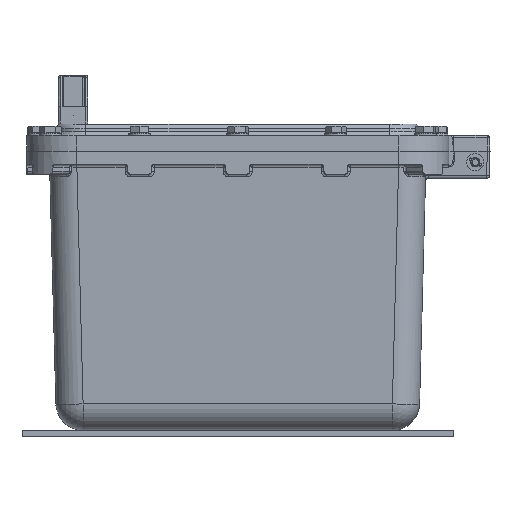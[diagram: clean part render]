
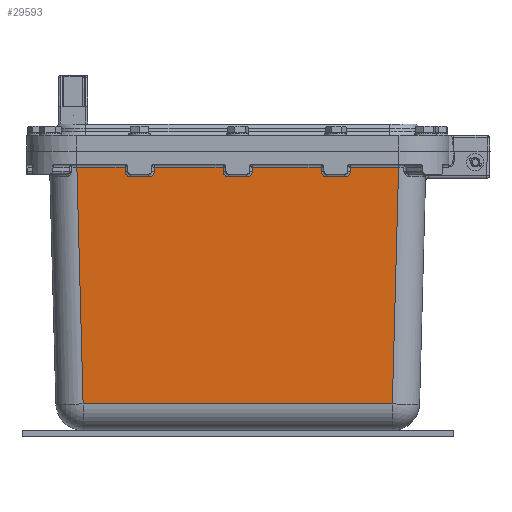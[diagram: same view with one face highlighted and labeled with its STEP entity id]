
A CAD part, front view. The second image highlights one B-rep face of the part: STEP entity #29593.
In plain terms, the highlighted planar face has unit normal (0, -1, -0.026).
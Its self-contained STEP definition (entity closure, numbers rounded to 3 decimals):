
#17242=CARTESIAN_POINT('',(103.435,-262.922,-14.435));
#17243=VERTEX_POINT('',#17242);
#17356=CARTESIAN_POINT('',(98.329,-262.686,-23.435));
#17357=VERTEX_POINT('',#17356);
#17358=CARTESIAN_POINT('',(103.327,-262.814,-18.565));
#17359=VERTEX_POINT('',#17358);
#17360=CARTESIAN_POINT('',(98.329,-262.817,-18.435));
#17361=DIRECTION('',(0.0,-1.,-0.026));
#17362=DIRECTION('',(0.,0.026,-1.));
#17363=AXIS2_PLACEMENT_3D('',#17360,#17361,#17362);
#17364=ELLIPSE('',#17363,5.002,5.);
#17365=EDGE_CURVE('',#17357,#17359,#17364,.T.);
#17401=CARTESIAN_POINT('',(103.327,-262.814,-18.565));
#17402=DIRECTION('',(0.026,-0.026,0.999));
#17403=VECTOR('',#17402,4.134);
#17404=LINE('',#17401,#17403);
#17405=EDGE_CURVE('',#17359,#17243,#17404,.T.);
#17505=CARTESIAN_POINT('',(76.673,-262.814,-18.565));
#17506=VERTEX_POINT('',#17505);
#17514=CARTESIAN_POINT('',(81.671,-262.686,-23.435));
#17515=VERTEX_POINT('',#17514);
#17516=CARTESIAN_POINT('',(81.671,-262.817,-18.435));
#17517=DIRECTION('',(0.0,-1.,-0.026));
#17518=DIRECTION('',(0.,0.026,-1.));
#17519=AXIS2_PLACEMENT_3D('',#17516,#17517,#17518);
#17520=ELLIPSE('',#17519,5.002,5.0);
#17521=EDGE_CURVE('',#17506,#17515,#17520,.T.);
#17583=CARTESIAN_POINT('',(76.565,-262.922,-14.435));
#17584=VERTEX_POINT('',#17583);
#17676=CARTESIAN_POINT('',(13.435,-262.922,-14.435));
#17677=VERTEX_POINT('',#17676);
#17797=CARTESIAN_POINT('',(8.329,-262.686,-23.435));
#17798=VERTEX_POINT('',#17797);
#17799=CARTESIAN_POINT('',(13.327,-262.814,-18.565));
#17800=VERTEX_POINT('',#17799);
#17801=CARTESIAN_POINT('',(8.329,-262.817,-18.435));
#17802=DIRECTION('',(0.0,-1.,-0.026));
#17803=DIRECTION('',(0.,0.026,-1.));
#17804=AXIS2_PLACEMENT_3D('',#17801,#17802,#17803);
#17805=ELLIPSE('',#17804,5.002,5.);
#17806=EDGE_CURVE('',#17798,#17800,#17805,.T.);
#17842=CARTESIAN_POINT('',(13.327,-262.814,-18.565));
#17843=DIRECTION('',(0.026,-0.026,0.999));
#17844=VECTOR('',#17843,4.134);
#17845=LINE('',#17842,#17844);
#17846=EDGE_CURVE('',#17800,#17677,#17845,.T.);
#17946=CARTESIAN_POINT('',(-13.327,-262.814,-18.565));
#17947=VERTEX_POINT('',#17946);
#17955=CARTESIAN_POINT('',(-8.329,-262.686,-23.435));
#17956=VERTEX_POINT('',#17955);
#17957=CARTESIAN_POINT('',(-8.329,-262.817,-18.435));
#17958=DIRECTION('',(0.,-1.,-0.026));
#17959=DIRECTION('',(0.,0.026,-1.));
#17960=AXIS2_PLACEMENT_3D('',#17957,#17958,#17959);
#17961=ELLIPSE('',#17960,5.002,5.0);
#17962=EDGE_CURVE('',#17947,#17956,#17961,.T.);
#18024=CARTESIAN_POINT('',(-13.435,-262.922,-14.435));
#18025=VERTEX_POINT('',#18024);
#18117=CARTESIAN_POINT('',(-76.565,-262.922,-14.435));
#18118=VERTEX_POINT('',#18117);
#18238=CARTESIAN_POINT('',(-81.671,-262.686,-23.435));
#18239=VERTEX_POINT('',#18238);
#18240=CARTESIAN_POINT('',(-76.673,-262.814,-18.565));
#18241=VERTEX_POINT('',#18240);
#18242=CARTESIAN_POINT('',(-81.671,-262.817,-18.435));
#18243=DIRECTION('',(0.0,-1.,-0.026));
#18244=DIRECTION('',(0.,0.026,-1.));
#18245=AXIS2_PLACEMENT_3D('',#18242,#18243,#18244);
#18246=ELLIPSE('',#18245,5.002,5.);
#18247=EDGE_CURVE('',#18239,#18241,#18246,.T.);
#18283=CARTESIAN_POINT('',(-76.673,-262.814,-18.565));
#18284=DIRECTION('',(0.026,-0.026,0.999));
#18285=VECTOR('',#18284,4.134);
#18286=LINE('',#18283,#18285);
#18287=EDGE_CURVE('',#18241,#18118,#18286,.T.);
#18387=CARTESIAN_POINT('',(-103.327,-262.814,-18.565));
#18388=VERTEX_POINT('',#18387);
#18396=CARTESIAN_POINT('',(-98.329,-262.686,-23.435));
#18397=VERTEX_POINT('',#18396);
#18398=CARTESIAN_POINT('',(-98.329,-262.817,-18.435));
#18399=DIRECTION('',(0.0,-1.,-0.026));
#18400=DIRECTION('',(0.,0.026,-1.));
#18401=AXIS2_PLACEMENT_3D('',#18398,#18399,#18400);
#18402=ELLIPSE('',#18401,5.002,5.0);
#18403=EDGE_CURVE('',#18388,#18397,#18402,.T.);
#18465=CARTESIAN_POINT('',(-103.435,-262.922,-14.435));
#18466=VERTEX_POINT('',#18465);
#18491=CARTESIAN_POINT('',(-147.631,-262.922,-14.435));
#18492=VERTEX_POINT('',#18491);
#18500=CARTESIAN_POINT('',(-147.631,-262.922,-14.435));
#18501=DIRECTION('',(1.0,0.0,0.0));
#18502=VECTOR('',#18501,44.195);
#18503=LINE('',#18500,#18502);
#18504=EDGE_CURVE('',#18492,#18466,#18503,.T.);
#18563=CARTESIAN_POINT('',(-103.435,-262.922,-14.435));
#18564=DIRECTION('',(0.026,0.026,-0.999));
#18565=VECTOR('',#18564,4.134);
#18566=LINE('',#18563,#18565);
#18567=EDGE_CURVE('',#18466,#18388,#18566,.T.);
#18783=CARTESIAN_POINT('',(-98.329,-262.686,-23.435));
#18784=DIRECTION('',(1.0,0.0,0.0));
#18785=VECTOR('',#18784,16.658);
#18786=LINE('',#18783,#18785);
#18787=EDGE_CURVE('',#18397,#18239,#18786,.T.);
#18849=CARTESIAN_POINT('',(-76.565,-262.922,-14.435));
#18850=DIRECTION('',(1.0,0.0,0.0));
#18851=VECTOR('',#18850,63.129);
#18852=LINE('',#18849,#18851);
#18853=EDGE_CURVE('',#18118,#18025,#18852,.T.);
#18893=CARTESIAN_POINT('',(-13.435,-262.922,-14.435));
#18894=DIRECTION('',(0.026,0.026,-0.999));
#18895=VECTOR('',#18894,4.134);
#18896=LINE('',#18893,#18895);
#18897=EDGE_CURVE('',#18025,#17947,#18896,.T.);
#18954=CARTESIAN_POINT('',(-8.329,-262.686,-23.435));
#18955=DIRECTION('',(1.0,0.0,0.0));
#18956=VECTOR('',#18955,16.658);
#18957=LINE('',#18954,#18956);
#18958=EDGE_CURVE('',#17956,#17798,#18957,.T.);
#19020=CARTESIAN_POINT('',(13.435,-262.922,-14.435));
#19021=DIRECTION('',(1.0,0.0,0.0));
#19022=VECTOR('',#19021,63.129);
#19023=LINE('',#19020,#19022);
#19024=EDGE_CURVE('',#17677,#17584,#19023,.T.);
#19064=CARTESIAN_POINT('',(76.565,-262.922,-14.435));
#19065=DIRECTION('',(0.026,0.026,-0.999));
#19066=VECTOR('',#19065,4.134);
#19067=LINE('',#19064,#19066);
#19068=EDGE_CURVE('',#17584,#17506,#19067,.T.);
#19125=CARTESIAN_POINT('',(81.671,-262.686,-23.435));
#19126=DIRECTION('',(1.0,0.0,0.0));
#19127=VECTOR('',#19126,16.658);
#19128=LINE('',#19125,#19127);
#19129=EDGE_CURVE('',#17515,#17357,#19128,.T.);
#19203=CARTESIAN_POINT('',(147.631,-262.922,-14.435));
#19204=VERTEX_POINT('',#19203);
#19241=CARTESIAN_POINT('',(103.435,-262.922,-14.435));
#19242=DIRECTION('',(1.0,0.0,0.0));
#19243=VECTOR('',#19242,44.195);
#19244=LINE('',#19241,#19243);
#19245=EDGE_CURVE('',#17243,#19204,#19244,.T.);
#25183=CARTESIAN_POINT('',(141.937,-257.229,-231.854));
#25184=VERTEX_POINT('',#25183);
#25185=CARTESIAN_POINT('',(147.631,-262.922,-14.435));
#25186=DIRECTION('',(-0.026,0.026,-0.999));
#25187=VECTOR('',#25186,217.569);
#25188=LINE('',#25185,#25187);
#25189=EDGE_CURVE('',#19204,#25184,#25188,.T.);
#29552=CARTESIAN_POINT('',(-173.,-263.3,0.0));
#29553=DIRECTION('',(0.0,-1.,-0.026));
#29554=DIRECTION('',(-1.0,0.0,0.0));
#29555=AXIS2_PLACEMENT_3D('',#29552,#29553,#29554);
#29556=PLANE('',#29555);
#29557=ORIENTED_EDGE('',*,*,#18504,.F.);
#29558=CARTESIAN_POINT('',(-141.937,-257.229,-231.854));
#29559=VERTEX_POINT('',#29558);
#29560=CARTESIAN_POINT('',(-141.937,-257.229,-231.854));
#29561=DIRECTION('',(-0.026,-0.026,0.999));
#29562=VECTOR('',#29561,217.569);
#29563=LINE('',#29560,#29562);
#29564=EDGE_CURVE('',#29559,#18492,#29563,.T.);
#29565=ORIENTED_EDGE('',*,*,#29564,.F.);
#29566=CARTESIAN_POINT('',(141.937,-257.229,-231.854));
#29567=DIRECTION('',(-1.0,0.0,0.0));
#29568=VECTOR('',#29567,283.874);
#29569=LINE('',#29566,#29568);
#29570=EDGE_CURVE('',#25184,#29559,#29569,.T.);
#29571=ORIENTED_EDGE('',*,*,#29570,.F.);
#29572=ORIENTED_EDGE('',*,*,#25189,.F.);
#29573=ORIENTED_EDGE('',*,*,#19245,.F.);
#29574=ORIENTED_EDGE('',*,*,#17405,.F.);
#29575=ORIENTED_EDGE('',*,*,#17365,.F.);
#29576=ORIENTED_EDGE('',*,*,#19129,.F.);
#29577=ORIENTED_EDGE('',*,*,#17521,.F.);
#29578=ORIENTED_EDGE('',*,*,#19068,.F.);
#29579=ORIENTED_EDGE('',*,*,#19024,.F.);
#29580=ORIENTED_EDGE('',*,*,#17846,.F.);
#29581=ORIENTED_EDGE('',*,*,#17806,.F.);
#29582=ORIENTED_EDGE('',*,*,#18958,.F.);
#29583=ORIENTED_EDGE('',*,*,#17962,.F.);
#29584=ORIENTED_EDGE('',*,*,#18897,.F.);
#29585=ORIENTED_EDGE('',*,*,#18853,.F.);
#29586=ORIENTED_EDGE('',*,*,#18287,.F.);
#29587=ORIENTED_EDGE('',*,*,#18247,.F.);
#29588=ORIENTED_EDGE('',*,*,#18787,.F.);
#29589=ORIENTED_EDGE('',*,*,#18403,.F.);
#29590=ORIENTED_EDGE('',*,*,#18567,.F.);
#29591=EDGE_LOOP('',(#29557,#29565,#29571,#29572,#29573,#29574,#29575,#29576,#29577,#29578,#29579,#29580,#29581,#29582,#29583,#29584,#29585,#29586,#29587,#29588,#29589,#29590));
#29592=FACE_OUTER_BOUND('',#29591,.T.);
#29593=ADVANCED_FACE('',(#29592),#29556,.T.);
